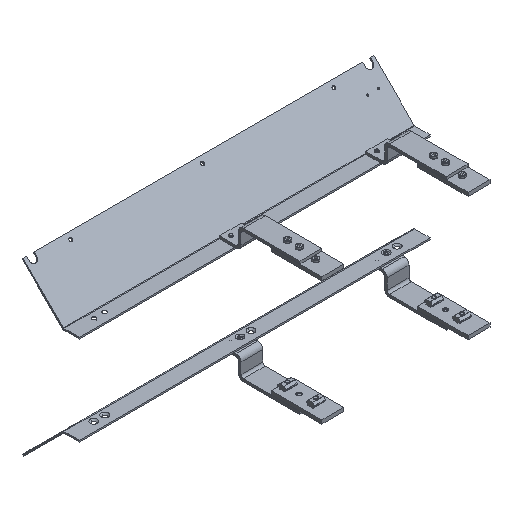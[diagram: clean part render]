
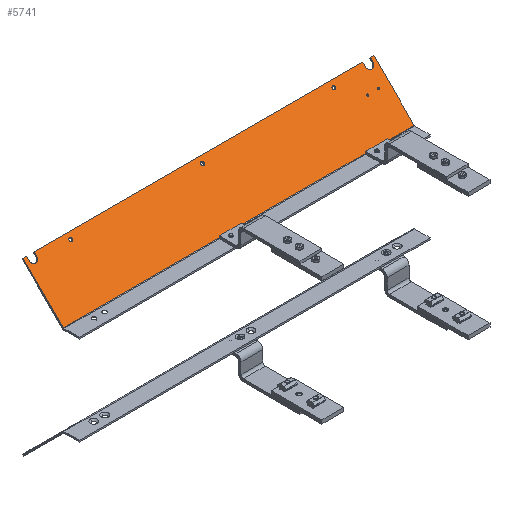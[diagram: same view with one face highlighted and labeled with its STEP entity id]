
A CAD part, isometric view. The second image highlights one B-rep face of the part: STEP entity #5741.
In plain terms, the highlighted planar face has unit normal (0, -0.707, 0.707).
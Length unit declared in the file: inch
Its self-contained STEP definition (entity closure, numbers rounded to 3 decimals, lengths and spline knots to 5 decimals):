
#4820=DIRECTION('',(1.,0.,0.));
#4821=VECTOR('',#4820,24.);
#4822=CARTESIAN_POINT('',(-24.,1.08655,-2.75135));
#4823=LINE('',#4822,#4821);
#5010=CARTESIAN_POINT('',(-23.5,3.65971,-0.17819));
#5011=DIRECTION('',(0.,-0.707,0.707));
#5012=DIRECTION('',(-1.,0.,0.));
#5013=AXIS2_PLACEMENT_3D('',#5010,#5011,#5012);
#5015=DIRECTION('',(0.,0.707,0.707));
#5016=VECTOR('',#5015,0.252);
#5017=CARTESIAN_POINT('',(-23.235,3.65971,-0.17819));
#5018=LINE('',#5017,#5016);
#5019=DIRECTION('',(1.,0.,0.));
#5020=VECTOR('',#5019,22.47);
#5021=CARTESIAN_POINT('',(-23.235,3.8379,0.));
#5022=LINE('',#5021,#5020);
#5023=CARTESIAN_POINT('',(-0.5,3.65971,-0.17819));
#5024=DIRECTION('',(0.,-0.707,0.707));
#5025=DIRECTION('',(-1.,0.,0.));
#5026=AXIS2_PLACEMENT_3D('',#5023,#5024,#5025);
#5028=DIRECTION('',(0.,0.707,0.707));
#5029=VECTOR('',#5028,0.252);
#5030=CARTESIAN_POINT('',(-0.235,3.65971,-0.17819));
#5031=LINE('',#5030,#5029);
#5032=DIRECTION('',(1.,0.,0.));
#5033=VECTOR('',#5032,0.235);
#5034=CARTESIAN_POINT('',(-0.235,3.8379,0.));
#5035=LINE('',#5034,#5033);
#5036=DIRECTION('',(0.,0.707,0.707));
#5037=VECTOR('',#5036,3.891);
#5038=CARTESIAN_POINT('',(-24.,1.08655,-2.75135));
#5039=LINE('',#5038,#5037);
#5040=DIRECTION('',(1.,0.,0.));
#5041=VECTOR('',#5040,0.235);
#5042=CARTESIAN_POINT('',(-24.,3.8379,0.));
#5043=LINE('',#5042,#5041);
#5044=CARTESIAN_POINT('',(-12.,3.57274,-0.26517));
#5045=DIRECTION('',(0.,-0.707,0.707));
#5046=DIRECTION('',(-1.,0.,0.));
#5047=AXIS2_PLACEMENT_3D('',#5044,#5045,#5046);
#5049=CARTESIAN_POINT('',(-12.,3.57274,-0.26517));
#5050=DIRECTION('',(0.,-0.707,0.707));
#5051=DIRECTION('',(1.,0.,0.));
#5052=AXIS2_PLACEMENT_3D('',#5049,#5050,#5051);
#5054=CARTESIAN_POINT('',(-21.,3.57274,-0.26517));
#5055=DIRECTION('',(0.,-0.707,0.707));
#5056=DIRECTION('',(-1.,0.,0.));
#5057=AXIS2_PLACEMENT_3D('',#5054,#5055,#5056);
#5059=CARTESIAN_POINT('',(-21.,3.57274,-0.26517));
#5060=DIRECTION('',(0.,-0.707,0.707));
#5061=DIRECTION('',(1.,0.,0.));
#5062=AXIS2_PLACEMENT_3D('',#5059,#5060,#5061);
#5064=CARTESIAN_POINT('',(-3.,3.57274,-0.26517));
#5065=DIRECTION('',(0.,-0.707,0.707));
#5066=DIRECTION('',(-1.,0.,0.));
#5067=AXIS2_PLACEMENT_3D('',#5064,#5065,#5066);
#5069=CARTESIAN_POINT('',(-3.,3.57274,-0.26517));
#5070=DIRECTION('',(0.,-0.707,0.707));
#5071=DIRECTION('',(1.,0.,0.));
#5072=AXIS2_PLACEMENT_3D('',#5069,#5070,#5071);
#5074=CARTESIAN_POINT('',(-0.75,2.77724,-1.06066));
#5075=DIRECTION('',(0.,-0.707,0.707));
#5076=DIRECTION('',(0.,-0.707,-0.707));
#5077=AXIS2_PLACEMENT_3D('',#5074,#5075,#5076);
#5079=CARTESIAN_POINT('',(-0.75,2.77724,-1.06066));
#5080=DIRECTION('',(0.,-0.707,0.707));
#5081=DIRECTION('',(0.,0.707,0.707));
#5082=AXIS2_PLACEMENT_3D('',#5079,#5080,#5081);
#5084=CARTESIAN_POINT('',(-1.5,2.77724,-1.06066));
#5085=DIRECTION('',(0.,-0.707,0.707));
#5086=DIRECTION('',(0.,-0.707,-0.707));
#5087=AXIS2_PLACEMENT_3D('',#5084,#5085,#5086);
#5089=CARTESIAN_POINT('',(-1.5,2.77724,-1.06066));
#5090=DIRECTION('',(0.,-0.707,0.707));
#5091=DIRECTION('',(0.,0.707,0.707));
#5092=AXIS2_PLACEMENT_3D('',#5089,#5090,#5091);
#5106=DIRECTION('',(0.,0.707,0.707));
#5107=VECTOR('',#5106,0.252);
#5108=CARTESIAN_POINT('',(-0.765,3.65971,-0.17819));
#5109=LINE('',#5108,#5107);
#5138=DIRECTION('',(0.,0.707,0.707));
#5139=VECTOR('',#5138,3.891);
#5140=CARTESIAN_POINT('',(0.,1.08655,-2.75135));
#5141=LINE('',#5140,#5139);
#5158=DIRECTION('',(0.,0.707,0.707));
#5159=VECTOR('',#5158,0.252);
#5160=CARTESIAN_POINT('',(-23.765,3.65971,-0.17819));
#5161=LINE('',#5160,#5159);
#5318=CARTESIAN_POINT('',(0.,1.08655,-2.75135));
#5319=VERTEX_POINT('',#5318);
#5322=CARTESIAN_POINT('',(-24.,1.08655,-2.75135));
#5323=VERTEX_POINT('',#5322);
#5366=CARTESIAN_POINT('',(-23.765,3.65971,-0.17819));
#5367=CARTESIAN_POINT('',(-23.235,3.65971,-0.17819));
#5368=VERTEX_POINT('',#5366);
#5369=VERTEX_POINT('',#5367);
#5370=CARTESIAN_POINT('',(-23.235,3.8379,0.));
#5371=VERTEX_POINT('',#5370);
#5372=CARTESIAN_POINT('',(-0.765,3.8379,0.));
#5373=VERTEX_POINT('',#5372);
#5374=CARTESIAN_POINT('',(-0.765,3.65971,-0.17819));
#5375=VERTEX_POINT('',#5374);
#5376=CARTESIAN_POINT('',(-0.235,3.65971,-0.17819));
#5377=VERTEX_POINT('',#5376);
#5378=CARTESIAN_POINT('',(-0.235,3.8379,0.));
#5379=VERTEX_POINT('',#5378);
#5380=CARTESIAN_POINT('',(0.,3.8379,0.));
#5381=VERTEX_POINT('',#5380);
#5382=CARTESIAN_POINT('',(-24.,3.8379,0.));
#5383=VERTEX_POINT('',#5382);
#5384=CARTESIAN_POINT('',(-23.765,3.8379,0.));
#5385=VERTEX_POINT('',#5384);
#5386=CARTESIAN_POINT('',(-12.11,3.57274,-0.26517));
#5387=CARTESIAN_POINT('',(-11.89,3.57274,-0.26517));
#5388=VERTEX_POINT('',#5386);
#5389=VERTEX_POINT('',#5387);
#5390=CARTESIAN_POINT('',(-21.11,3.57274,-0.26517));
#5391=CARTESIAN_POINT('',(-20.89,3.57274,-0.26517));
#5392=VERTEX_POINT('',#5390);
#5393=VERTEX_POINT('',#5391);
#5394=CARTESIAN_POINT('',(-3.11,3.57274,-0.26517));
#5395=CARTESIAN_POINT('',(-2.89,3.57274,-0.26517));
#5396=VERTEX_POINT('',#5394);
#5397=VERTEX_POINT('',#5395);
#5398=CARTESIAN_POINT('',(-0.75,2.73548,-1.10242));
#5399=CARTESIAN_POINT('',(-0.75,2.819,-1.0189));
#5400=VERTEX_POINT('',#5398);
#5401=VERTEX_POINT('',#5399);
#5402=CARTESIAN_POINT('',(-1.5,2.73548,-1.10242));
#5403=CARTESIAN_POINT('',(-1.5,2.819,-1.0189));
#5404=VERTEX_POINT('',#5402);
#5405=VERTEX_POINT('',#5403);
#5682=CARTESIAN_POINT('',(0.,3.8379,0.));
#5683=DIRECTION('',(0.,-0.707,0.707));
#5684=DIRECTION('',(0.,-0.707,-0.707));
#5685=AXIS2_PLACEMENT_3D('',#5682,#5683,#5684);
#5686=PLANE('',#5685);
#5687=ORIENTED_EDGE('',*,*,#5672,.T.);
#5689=ORIENTED_EDGE('',*,*,#5688,.T.);
#5691=ORIENTED_EDGE('',*,*,#5690,.T.);
#5693=ORIENTED_EDGE('',*,*,#5692,.F.);
#5695=ORIENTED_EDGE('',*,*,#5694,.T.);
#5697=ORIENTED_EDGE('',*,*,#5696,.T.);
#5699=ORIENTED_EDGE('',*,*,#5698,.T.);
#5701=ORIENTED_EDGE('',*,*,#5700,.F.);
#5702=ORIENTED_EDGE('',*,*,#5497,.F.);
#5704=ORIENTED_EDGE('',*,*,#5703,.T.);
#5706=ORIENTED_EDGE('',*,*,#5705,.T.);
#5708=ORIENTED_EDGE('',*,*,#5707,.F.);
#5709=EDGE_LOOP('',(#5687,#5689,#5691,#5693,#5695,#5697,#5699,#5701,#5702,#5704,
#5706,#5708));
#5710=FACE_OUTER_BOUND('',#5709,.F.);
#5712=ORIENTED_EDGE('',*,*,#5711,.T.);
#5714=ORIENTED_EDGE('',*,*,#5713,.T.);
#5715=EDGE_LOOP('',(#5712,#5714));
#5716=FACE_BOUND('',#5715,.F.);
#5718=ORIENTED_EDGE('',*,*,#5717,.T.);
#5720=ORIENTED_EDGE('',*,*,#5719,.T.);
#5721=EDGE_LOOP('',(#5718,#5720));
#5722=FACE_BOUND('',#5721,.F.);
#5724=ORIENTED_EDGE('',*,*,#5723,.T.);
#5726=ORIENTED_EDGE('',*,*,#5725,.T.);
#5727=EDGE_LOOP('',(#5724,#5726));
#5728=FACE_BOUND('',#5727,.F.);
#5730=ORIENTED_EDGE('',*,*,#5729,.T.);
#5732=ORIENTED_EDGE('',*,*,#5731,.T.);
#5733=EDGE_LOOP('',(#5730,#5732));
#5734=FACE_BOUND('',#5733,.F.);
#5736=ORIENTED_EDGE('',*,*,#5735,.T.);
#5738=ORIENTED_EDGE('',*,*,#5737,.T.);
#5739=EDGE_LOOP('',(#5736,#5738));
#5740=FACE_BOUND('',#5739,.F.);
#5014=CIRCLE('',#5013,0.265);
#5027=CIRCLE('',#5026,0.265);
#5048=CIRCLE('',#5047,0.11);
#5053=CIRCLE('',#5052,0.11);
#5058=CIRCLE('',#5057,0.11);
#5063=CIRCLE('',#5062,0.11);
#5068=CIRCLE('',#5067,0.11);
#5073=CIRCLE('',#5072,0.11);
#5078=CIRCLE('',#5077,0.05906);
#5083=CIRCLE('',#5082,0.05906);
#5088=CIRCLE('',#5087,0.05906);
#5093=CIRCLE('',#5092,0.05906);
#5497=EDGE_CURVE('',#5323,#5319,#4823,.T.);
#5672=EDGE_CURVE('',#5368,#5369,#5014,.T.);
#5688=EDGE_CURVE('',#5369,#5371,#5018,.T.);
#5690=EDGE_CURVE('',#5371,#5373,#5022,.T.);
#5692=EDGE_CURVE('',#5375,#5373,#5109,.T.);
#5694=EDGE_CURVE('',#5375,#5377,#5027,.T.);
#5696=EDGE_CURVE('',#5377,#5379,#5031,.T.);
#5698=EDGE_CURVE('',#5379,#5381,#5035,.T.);
#5700=EDGE_CURVE('',#5319,#5381,#5141,.T.);
#5703=EDGE_CURVE('',#5323,#5383,#5039,.T.);
#5705=EDGE_CURVE('',#5383,#5385,#5043,.T.);
#5707=EDGE_CURVE('',#5368,#5385,#5161,.T.);
#5711=EDGE_CURVE('',#5388,#5389,#5048,.T.);
#5713=EDGE_CURVE('',#5389,#5388,#5053,.T.);
#5717=EDGE_CURVE('',#5392,#5393,#5058,.T.);
#5719=EDGE_CURVE('',#5393,#5392,#5063,.T.);
#5723=EDGE_CURVE('',#5396,#5397,#5068,.T.);
#5725=EDGE_CURVE('',#5397,#5396,#5073,.T.);
#5729=EDGE_CURVE('',#5400,#5401,#5078,.T.);
#5731=EDGE_CURVE('',#5401,#5400,#5083,.T.);
#5735=EDGE_CURVE('',#5404,#5405,#5088,.T.);
#5737=EDGE_CURVE('',#5405,#5404,#5093,.T.);
#5741=ADVANCED_FACE('',(#5710,#5716,#5722,#5728,#5734,#5740),#5686,.T.);
